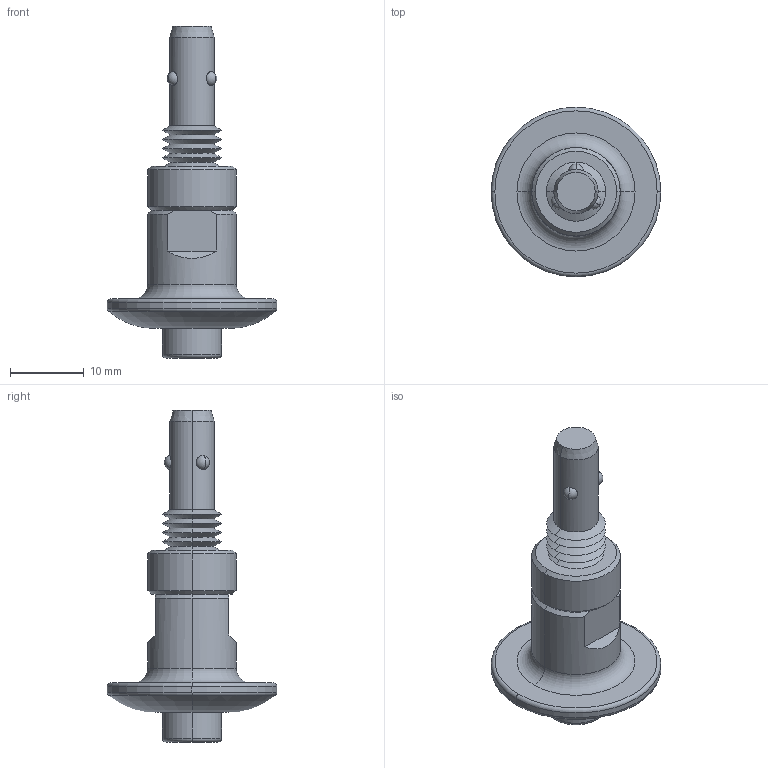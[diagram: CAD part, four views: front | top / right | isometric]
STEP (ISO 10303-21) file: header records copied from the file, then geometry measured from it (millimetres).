
FILE_DESCRIPTION (( 'STEP AP203' ), '1' );
FILE_NAME ('Default.step', '2019-10-28T11:22:44', ( '' ), ( '' ), 'SwSTEP 2.0', 'SolidWorks 2017', '' );
FILE_SCHEMA (( 'CONFIG_CONTROL_DESIGN' ));
Length unit declared in the file: millimetre
Products named in the file (1): Default
Bounding box: 23 x 23 x 45 mm (x, y, z)
Volume: 4132.2 mm3; surface area: 2181.2 mm2
Topology: 1 solids, 1 shells, 66 faces, 132 edges, 74 vertices
Faces by surface type: cone 29, plane 11, torus 10, cylinder 10, sphere 6
Entity records: 1866 total; most frequent: CARTESIAN_POINT 393, DIRECTION 329, ORIENTED_EDGE 264, AXIS2_PLACEMENT_3D 142, EDGE_CURVE 132, CIRCLE 75, VERTEX_POINT 74, EDGE_LOOP 72
